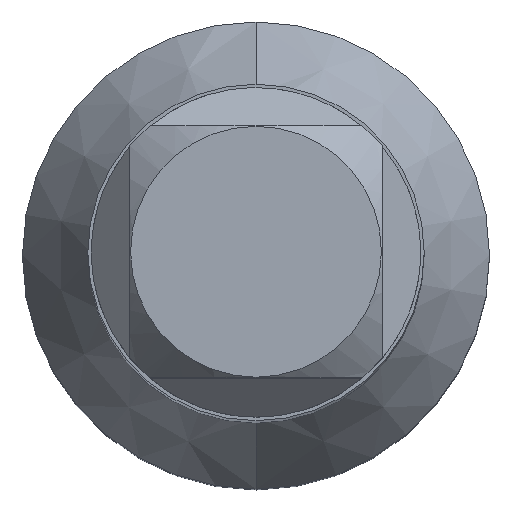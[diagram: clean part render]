
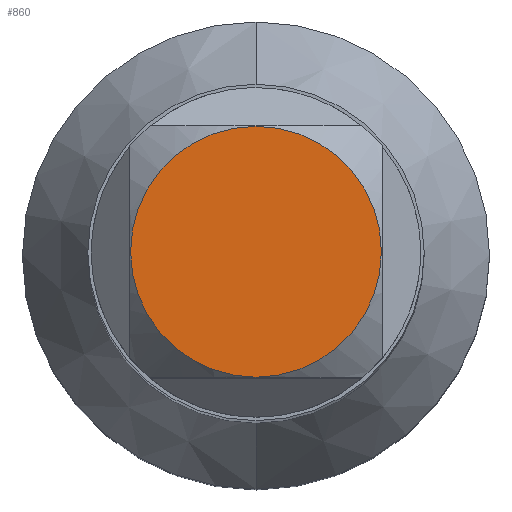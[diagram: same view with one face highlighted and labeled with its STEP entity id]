
A CAD part, top view. The second image highlights one B-rep face of the part: STEP entity #860.
In plain terms, the highlighted planar face has unit normal (0, 0, 1).
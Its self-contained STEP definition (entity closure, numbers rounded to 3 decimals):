
#24 = ORIENTED_EDGE ( 'NONE', *, *, #1019, .F. ) ;
#34 = ORIENTED_EDGE ( 'NONE', *, *, #169, .F. ) ;
#59 = AXIS2_PLACEMENT_3D ( 'NONE', #879, #876, #870 ) ;
#101 = CARTESIAN_POINT ( 'NONE',  ( 0., 0., 60. ) ) ;
#120 = CARTESIAN_POINT ( 'NONE',  ( 0., -4.475, 60. ) ) ;
#132 = DIRECTION ( 'NONE',  ( 0., 1., 0. ) ) ;
#169 = EDGE_CURVE ( 'NONE', #352, #415, #1299, .T. ) ;
#291 = AXIS2_PLACEMENT_3D ( 'NONE', #1149, #1143, #1139 ) ;
#338 = CIRCLE ( 'NONE', #59, 4.475 ) ;
#352 = VERTEX_POINT ( 'NONE', #120 ) ;
#409 = CARTESIAN_POINT ( 'NONE',  ( 0., 4.475, 60. ) ) ;
#415 = VERTEX_POINT ( 'NONE', #409 ) ;
#468 = DIRECTION ( 'NONE',  ( 0., 0., -1. ) ) ;
#672 = EDGE_LOOP ( 'NONE', ( #24, #34 ) ) ;
#860 = ADVANCED_FACE ( 'NONE', ( #1042 ), #1211, .F. ) ;
#870 = DIRECTION ( 'NONE',  ( 0., 1., 0. ) ) ;
#876 = DIRECTION ( 'NONE',  ( 0., 0., -1. ) ) ;
#879 = CARTESIAN_POINT ( 'NONE',  ( 0., 0., 60. ) ) ;
#1019 = EDGE_CURVE ( 'NONE', #415, #352, #338, .T. ) ;
#1042 = FACE_OUTER_BOUND ( 'NONE', #672, .T. ) ;
#1079 = AXIS2_PLACEMENT_3D ( 'NONE', #101, #468, #132 ) ;
#1139 = DIRECTION ( 'NONE',  ( 0., 1., 0. ) ) ;
#1143 = DIRECTION ( 'NONE',  ( 0., 0., -1. ) ) ;
#1149 = CARTESIAN_POINT ( 'NONE',  ( 0., 0., 60. ) ) ;
#1211 = PLANE ( 'NONE',  #291 ) ;
#1299 = CIRCLE ( 'NONE', #1079, 4.475 ) ;
